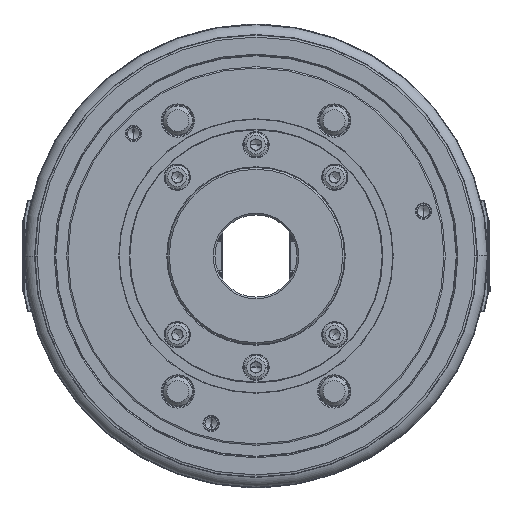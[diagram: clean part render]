
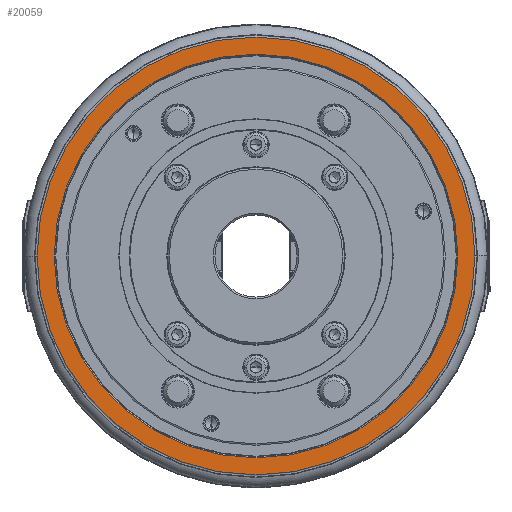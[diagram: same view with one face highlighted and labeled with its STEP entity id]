
A CAD part, left-side view. The second image highlights one B-rep face of the part: STEP entity #20059.
In plain terms, the highlighted planar face has unit normal (-1, 0, 0) as drawn and (0, 0, -1) by its records, which use the part's own axes.
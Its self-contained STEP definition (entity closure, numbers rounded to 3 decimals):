
#972 = CARTESIAN_POINT ( 'NONE',  ( 0., 0., -100. ) ) ;
#1097 = EDGE_CURVE ( 'NONE', #54662, #81265, #13823, .T. ) ;
#1689 = EDGE_LOOP ( 'NONE', ( #27725, #23946 ) ) ;
#2228 = AXIS2_PLACEMENT_3D ( 'NONE', #972, #39808, #27693 ) ;
#3778 = FACE_BOUND ( 'NONE', #1689, .T. ) ;
#10197 = CARTESIAN_POINT ( 'NONE',  ( 110.6, 0., -100. ) ) ;
#11535 = DIRECTION ( 'NONE',  ( 0., 0., -1. ) ) ;
#13823 = CIRCLE ( 'NONE', #51051, 120. ) ;
#15583 = ORIENTED_EDGE ( 'NONE', *, *, #1097, .F. ) ;
#20059 = ADVANCED_FACE ( 'NONE', ( #83188, #3778 ), #75851, .T. ) ;
#22530 = CIRCLE ( 'NONE', #70772, 120. ) ;
#23946 = ORIENTED_EDGE ( 'NONE', *, *, #74180, .T. ) ;
#27693 = DIRECTION ( 'NONE',  ( 1., 0., 0. ) ) ;
#27725 = ORIENTED_EDGE ( 'NONE', *, *, #63444, .T. ) ;
#29701 = CIRCLE ( 'NONE', #2228, 110.6 ) ;
#30393 = EDGE_LOOP ( 'NONE', ( #15583, #60812 ) ) ;
#30847 = CARTESIAN_POINT ( 'NONE',  ( 0., 0., -100. ) ) ;
#32195 = CARTESIAN_POINT ( 'NONE',  ( 0., 0., -100. ) ) ;
#32812 = VERTEX_POINT ( 'NONE', #10197 ) ;
#32900 = AXIS2_PLACEMENT_3D ( 'NONE', #32195, #58116, #50812 ) ;
#34266 = CIRCLE ( 'NONE', #32900, 110.6 ) ;
#35492 = DIRECTION ( 'NONE',  ( 0., 1., 0. ) ) ;
#36626 = CARTESIAN_POINT ( 'NONE',  ( 0., -120., -100. ) ) ;
#36985 = DIRECTION ( 'NONE',  ( -1., 0., 0. ) ) ;
#39808 = DIRECTION ( 'NONE',  ( 0., 0., 1. ) ) ;
#39838 = CARTESIAN_POINT ( 'NONE',  ( 0., 120., -100. ) ) ;
#49740 = DIRECTION ( 'NONE',  ( 0., 0., 1. ) ) ;
#50812 = DIRECTION ( 'NONE',  ( 1., 0., 0. ) ) ;
#51051 = AXIS2_PLACEMENT_3D ( 'NONE', #30847, #83112, #64945 ) ;
#54504 = VERTEX_POINT ( 'NONE', #65761 ) ;
#54662 = VERTEX_POINT ( 'NONE', #39838 ) ;
#58116 = DIRECTION ( 'NONE',  ( 0., 0., 1. ) ) ;
#60812 = ORIENTED_EDGE ( 'NONE', *, *, #70273, .F. ) ;
#63444 = EDGE_CURVE ( 'NONE', #54504, #32812, #34266, .T. ) ;
#64945 = DIRECTION ( 'NONE',  ( 0., 1., 0. ) ) ;
#65761 = CARTESIAN_POINT ( 'NONE',  ( -110.6, 0., -100. ) ) ;
#70273 = EDGE_CURVE ( 'NONE', #81265, #54662, #22530, .T. ) ;
#70772 = AXIS2_PLACEMENT_3D ( 'NONE', #81269, #49740, #35492 ) ;
#74180 = EDGE_CURVE ( 'NONE', #32812, #54504, #29701, .T. ) ;
#75499 = AXIS2_PLACEMENT_3D ( 'NONE', #76268, #11535, #36985 ) ;
#75851 = PLANE ( 'NONE',  #75499 ) ;
#76268 = CARTESIAN_POINT ( 'NONE',  ( 110.6, 0., -100. ) ) ;
#81265 = VERTEX_POINT ( 'NONE', #36626 ) ;
#81269 = CARTESIAN_POINT ( 'NONE',  ( 0., 0., -100. ) ) ;
#83112 = DIRECTION ( 'NONE',  ( 0., 0., 1. ) ) ;
#83188 = FACE_OUTER_BOUND ( 'NONE', #30393, .T. ) ;
